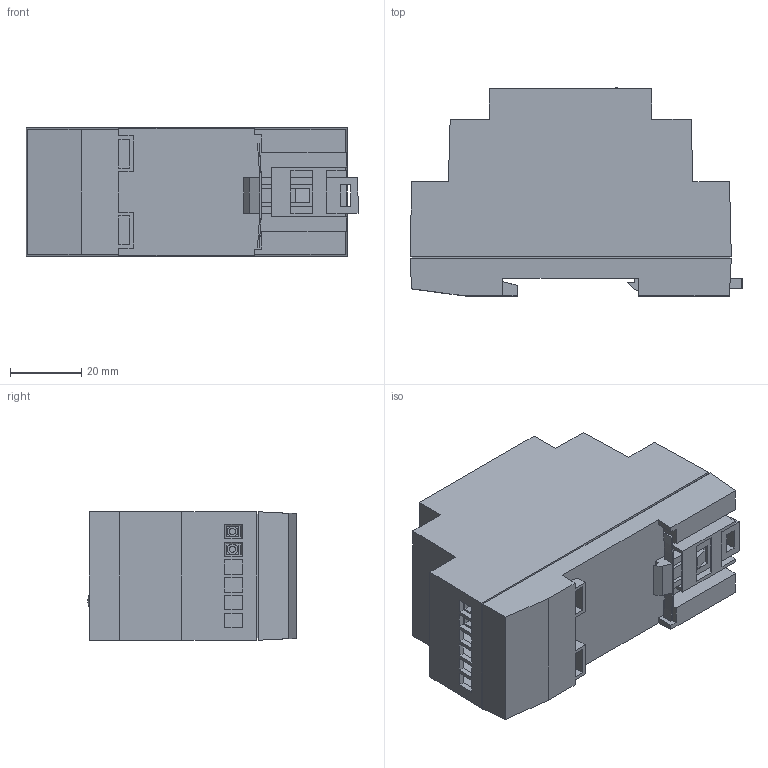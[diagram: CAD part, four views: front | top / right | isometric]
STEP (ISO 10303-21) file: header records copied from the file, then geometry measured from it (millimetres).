
FILE_DESCRIPTION (( 'STEP AP214' ), '1' );
FILE_NAME ('3D Ìîäåëü ÁÏ15Á-Ä2.STEP', '2015-08-11T12:06:28', ( '' ), ( '' ), 'SwSTEP 2.0', 'SolidWorks 2013', '' );
FILE_SCHEMA (( 'AUTOMOTIVE_DESIGN' ));
Length unit declared in the file: millimetre
Products named in the file (7): Êëåììà_14õ9,8õ5ìì; 椯鴀殣罻; ðåãóëÿòîð; ﾈ淸韭瑣ⅱ; Çàùåëêà(Ä); Êîðïóñ Ä2; 3D Ìîäåëü ÁÏ15Á-Ä2
Assembly tree (9 placements, depth 2):
  3D Ìîäåëü ÁÏ15Á-Ä2
    Êîðïóñ Ä2
    Çàùåëêà(Ä)
    ﾈ淸韭瑣ⅱ
    ðåãóëÿòîð
    椯鴀殣罻
    Êëåììà_14õ9,8õ5ìì  x4
Bounding box: 93 x 58.3 x 36 mm (x, y, z)
Volume: 112484.1 mm3; surface area: 34997.7 mm2
Topology: 25 solids, 25 shells, 1015 faces, 2627 edges, 1747 vertices
Faces by surface type: plane 757, bspline 143, cylinder 111, sphere 4
Entity records: 35894 total; most frequent: CARTESIAN_POINT 7691, ORIENTED_EDGE 4546, DIRECTION 3575, EDGE_CURVE 2273, VECTOR 1847, LINE 1847, VERTEX_POINT 1513, EDGE_LOOP 996
